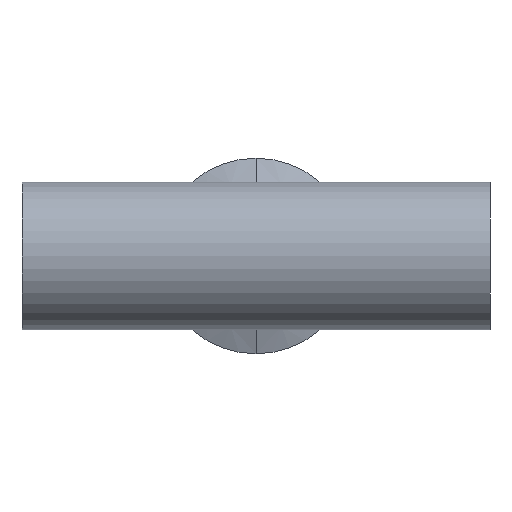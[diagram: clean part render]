
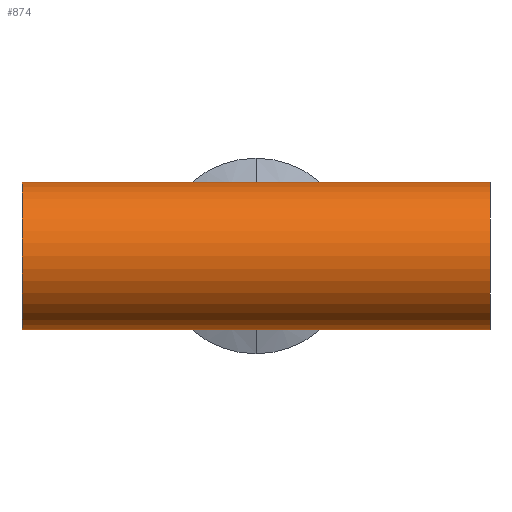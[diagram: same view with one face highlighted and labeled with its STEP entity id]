
A CAD part, front view. The second image highlights one B-rep face of the part: STEP entity #874.
In plain terms, the highlighted cylindrical face has radius 19.05 mm (diameter 38.1 mm), a partial arc.
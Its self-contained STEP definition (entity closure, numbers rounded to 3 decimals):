
#32 = DIRECTION ( 'NONE',  ( 0., 0., -1. ) ) ;
#55 = DIRECTION ( 'NONE',  ( 1., 0., 0. ) ) ;
#71 = DIRECTION ( 'NONE',  ( 1., 0., 0. ) ) ;
#82 = CIRCLE ( 'NONE', #1410, 19.05 ) ;
#98 = CARTESIAN_POINT ( 'NONE',  ( -60.3, 0., 0. ) ) ;
#126 = VECTOR ( 'NONE', #919, 1000. ) ;
#145 = CYLINDRICAL_SURFACE ( 'NONE', #934, 19.05 ) ;
#147 = FACE_OUTER_BOUND ( 'NONE', #569, .T. ) ;
#232 = EDGE_CURVE ( 'NONE', #1163, #581, #1424, .T. ) ;
#251 = VERTEX_POINT ( 'NONE', #302 ) ;
#263 = LINE ( 'NONE', #1776, #126 ) ;
#302 = CARTESIAN_POINT ( 'NONE',  ( 60.3, 0., 19.05 ) ) ;
#315 = ORIENTED_EDGE ( 'NONE', *, *, #1006, .T. ) ;
#489 = DIRECTION ( 'NONE',  ( 0., 0., -1. ) ) ;
#523 = EDGE_CURVE ( 'NONE', #957, #1163, #574, .T. ) ;
#569 = EDGE_LOOP ( 'NONE', ( #1139, #1386, #1230, #315 ) ) ;
#574 = CIRCLE ( 'NONE', #1844, 19.05 ) ;
#581 = VERTEX_POINT ( 'NONE', #1848 ) ;
#830 = EDGE_CURVE ( 'NONE', #957, #251, #263, .T. ) ;
#874 = ADVANCED_FACE ( 'NONE', ( #147 ), #145, .T. ) ;
#919 = DIRECTION ( 'NONE',  ( 1., 0., 0. ) ) ;
#934 = AXIS2_PLACEMENT_3D ( 'NONE', #1411, #1800, #489 ) ;
#957 = VERTEX_POINT ( 'NONE', #1649 ) ;
#1006 = EDGE_CURVE ( 'NONE', #581, #251, #82, .T. ) ;
#1139 = ORIENTED_EDGE ( 'NONE', *, *, #830, .F. ) ;
#1163 = VERTEX_POINT ( 'NONE', #1626 ) ;
#1192 = DIRECTION ( 'NONE',  ( -1., 0., 0. ) ) ;
#1230 = ORIENTED_EDGE ( 'NONE', *, *, #232, .T. ) ;
#1243 = CARTESIAN_POINT ( 'NONE',  ( -60.3, 0., -19.05 ) ) ;
#1257 = CARTESIAN_POINT ( 'NONE',  ( 60.3, 0., 0. ) ) ;
#1386 = ORIENTED_EDGE ( 'NONE', *, *, #523, .T. ) ;
#1410 = AXIS2_PLACEMENT_3D ( 'NONE', #1257, #1192, #32 ) ;
#1411 = CARTESIAN_POINT ( 'NONE',  ( -60.3, 0., 0. ) ) ;
#1424 = LINE ( 'NONE', #1243, #1459 ) ;
#1459 = VECTOR ( 'NONE', #71, 1000. ) ;
#1572 = DIRECTION ( 'NONE',  ( 0., 0., -1. ) ) ;
#1626 = CARTESIAN_POINT ( 'NONE',  ( -60.3, 0., -19.05 ) ) ;
#1649 = CARTESIAN_POINT ( 'NONE',  ( -60.3, 0., 19.05 ) ) ;
#1776 = CARTESIAN_POINT ( 'NONE',  ( -60.3, 0., 19.05 ) ) ;
#1800 = DIRECTION ( 'NONE',  ( 1., 0., 0. ) ) ;
#1844 = AXIS2_PLACEMENT_3D ( 'NONE', #98, #55, #1572 ) ;
#1848 = CARTESIAN_POINT ( 'NONE',  ( 60.3, 0., -19.05 ) ) ;
